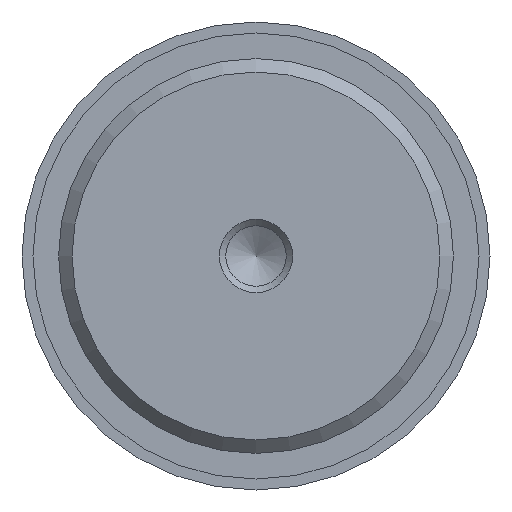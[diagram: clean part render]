
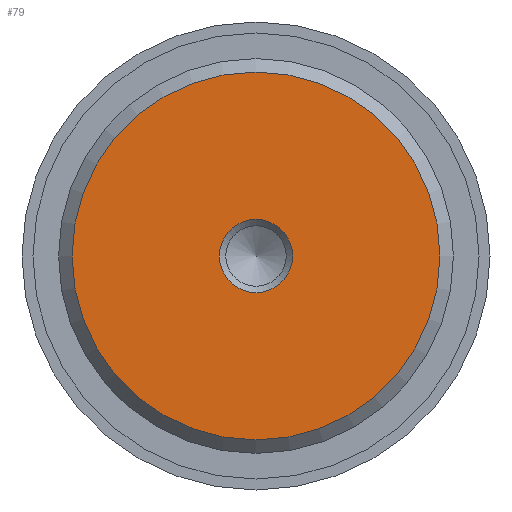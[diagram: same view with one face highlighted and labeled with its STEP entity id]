
A CAD part, front view. The second image highlights one B-rep face of the part: STEP entity #79.
In plain terms, the highlighted planar face has unit normal (0, -1, 0).
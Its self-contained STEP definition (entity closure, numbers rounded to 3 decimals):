
#79 = ADVANCED_FACE( '', ( #123, #124 ), #125, .F. );
#123 = FACE_BOUND( '', #206, .T. );
#124 = FACE_OUTER_BOUND( '', #207, .T. );
#125 = PLANE( '', #208 );
#206 = EDGE_LOOP( '', ( #303 ) );
#207 = EDGE_LOOP( '', ( #304 ) );
#208 = AXIS2_PLACEMENT_3D( '', #305, #306, #307 );
#303 = ORIENTED_EDGE( '', *, *, #522, .F. );
#304 = ORIENTED_EDGE( '', *, *, #526, .T. );
#305 = CARTESIAN_POINT( '', ( 12.58, 0., 0. ) );
#306 = DIRECTION( '', ( 0., 1., 0. ) );
#307 = DIRECTION( '', ( 0., 0., 1. ) );
#522 = EDGE_CURVE( '', #594, #594, #595, .T. );
#526 = EDGE_CURVE( '', #600, #600, #601, .T. );
#594 = VERTEX_POINT( '', #715 );
#595 = CIRCLE( '', #716, 2.5 );
#600 = VERTEX_POINT( '', #721 );
#601 = CIRCLE( '', #722, 12.58 );
#715 = CARTESIAN_POINT( '', ( 2.5, 0., 0. ) );
#716 = AXIS2_PLACEMENT_3D( '', #901, #902, #903 );
#721 = CARTESIAN_POINT( '', ( 0., 0., -12.58 ) );
#722 = AXIS2_PLACEMENT_3D( '', #910, #911, #912 );
#901 = CARTESIAN_POINT( '', ( 0., 0., 0. ) );
#902 = DIRECTION( '', ( 0., -1., 0. ) );
#903 = DIRECTION( '', ( 1., 0., 0. ) );
#910 = CARTESIAN_POINT( '', ( 0., 0., 0. ) );
#911 = DIRECTION( '', ( 0., -1., 0. ) );
#912 = DIRECTION( '', ( 0., 0., -1. ) );
